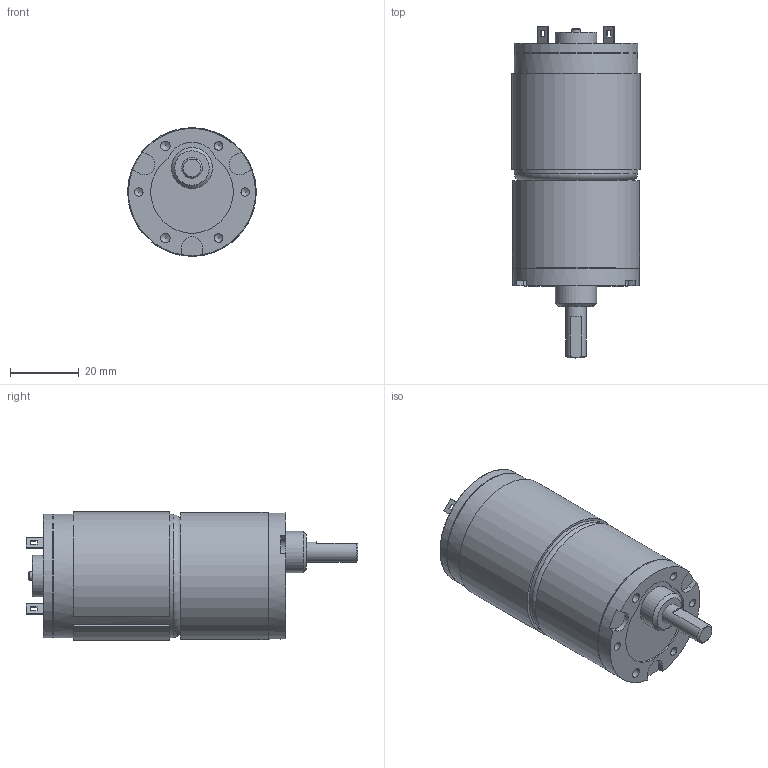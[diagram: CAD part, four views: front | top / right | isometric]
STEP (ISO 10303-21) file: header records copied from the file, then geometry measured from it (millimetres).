
FILE_DESCRIPTION((''),'2;1');
FILE_NAME('C:\Documents and Settings\SSEGAWA\デスクトップ\TP-3640B-KS-5.STP','2013-07-18T17:05:57',('SSEGAWA'),(''),'Autodesk Inventor 2010','Autodesk Inventor 2010','');
FILE_SCHEMA(('CONFIG_CONTROL_DESIGN'));
Length unit declared in the file: millimetre
Products named in the file (1): tp_3640bce_ks_5_Shrinkwrap_1
Bounding box: 37.5 x 96.7 x 37.5 mm (x, y, z)
Volume: 76919.4 mm3; surface area: 12234.7 mm2
Topology: 4 solids, 4 shells, 100 faces, 234 edges, 155 vertices
Faces by surface type: plane 56, bspline 20, cylinder 18, cone 3, torus 3
Full cylindrical faces by diameter (mm): 2.5 x1, 4 x1, 4.5 x1, 6 x1, 12 x2, 35.6 x1, 36 x2, 36.6 x1, 37 x2
Entity records: 2839 total; most frequent: CARTESIAN_POINT 698, DIRECTION 403, ORIENTED_EDGE 354, EDGE_CURVE 177, EDGE_LOOP 151, AXIS2_PLACEMENT_3D 147, VERTEX_POINT 132, VECTOR 109
